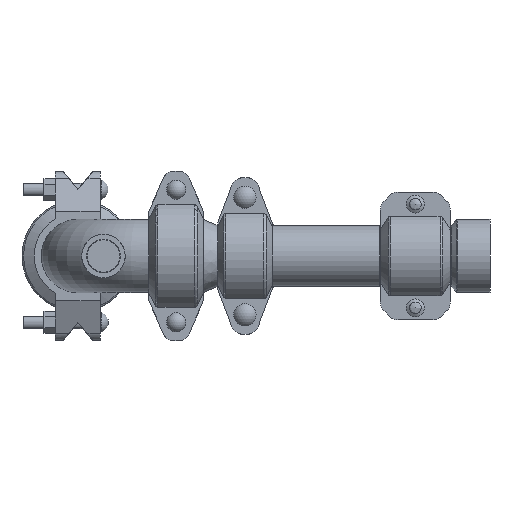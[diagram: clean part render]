
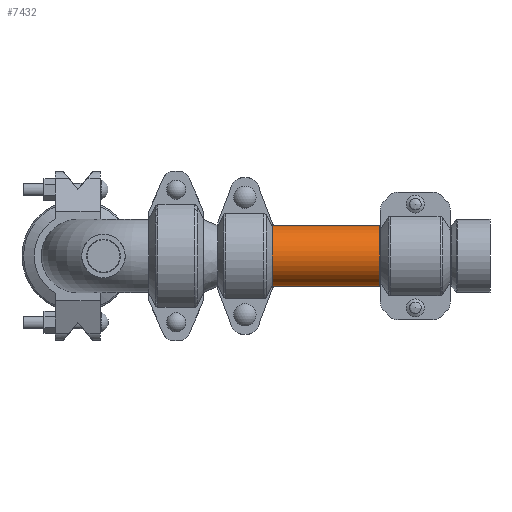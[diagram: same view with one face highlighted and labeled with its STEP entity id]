
A CAD part, front view. The second image highlights one B-rep face of the part: STEP entity #7432.
In plain terms, the highlighted cylindrical face has radius 30.163 mm (diameter 60.325 mm), a full revolution.
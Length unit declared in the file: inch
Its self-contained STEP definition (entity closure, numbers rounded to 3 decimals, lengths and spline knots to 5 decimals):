
#279=LINE('',#11395,#779);
#779=VECTOR('',#9057,1.1875);
#1279=CYLINDRICAL_SURFACE('',#8115,1.1875);
#1507=FACE_OUTER_BOUND('',#1905,.T.);
#1905=EDGE_LOOP('',(#4666,#4667,#4668,#4669,#4670,#4671));
#2391=CIRCLE('',#8113,1.1875);
#2392=CIRCLE('',#8114,1.1875);
#2393=CIRCLE('',#8116,1.1875);
#2394=CIRCLE('',#8117,1.1875);
#2843=VERTEX_POINT('',#11386);
#2844=VERTEX_POINT('',#11387);
#2845=VERTEX_POINT('',#11391);
#2846=VERTEX_POINT('',#11392);
#3580=EDGE_CURVE('',#2843,#2844,#2391,.T.);
#3581=EDGE_CURVE('',#2844,#2843,#2392,.T.);
#3582=EDGE_CURVE('',#2845,#2846,#2393,.T.);
#3583=EDGE_CURVE('',#2846,#2845,#2394,.T.);
#3584=EDGE_CURVE('',#2846,#2844,#279,.T.);
#4666=ORIENTED_EDGE('',*,*,#3582,.F.);
#4667=ORIENTED_EDGE('',*,*,#3583,.F.);
#4668=ORIENTED_EDGE('',*,*,#3584,.T.);
#4669=ORIENTED_EDGE('',*,*,#3581,.T.);
#4670=ORIENTED_EDGE('',*,*,#3580,.T.);
#4671=ORIENTED_EDGE('',*,*,#3584,.F.);
#7432=ADVANCED_FACE('',(#1507),#1279,.T.);
#8113=AXIS2_PLACEMENT_3D('',#11388,#9047,#9048);
#8114=AXIS2_PLACEMENT_3D('',#11389,#9049,#9050);
#8115=AXIS2_PLACEMENT_3D('',#11390,#9051,#9052);
#8116=AXIS2_PLACEMENT_3D('',#11393,#9053,#9054);
#8117=AXIS2_PLACEMENT_3D('',#11394,#9055,#9056);
#9047=DIRECTION('center_axis',(1.,0.,0.));
#9048=DIRECTION('ref_axis',(0.,0.,-1.));
#9049=DIRECTION('center_axis',(1.,0.,0.));
#9050=DIRECTION('ref_axis',(0.,0.,-1.));
#9051=DIRECTION('center_axis',(1.,0.,0.));
#9052=DIRECTION('ref_axis',(0.,1.,0.));
#9053=DIRECTION('center_axis',(1.,0.,0.));
#9054=DIRECTION('ref_axis',(0.,0.,-1.));
#9055=DIRECTION('center_axis',(1.,0.,0.));
#9056=DIRECTION('ref_axis',(0.,0.,-1.));
#9057=DIRECTION('',(-1.,0.,0.));
#11386=CARTESIAN_POINT('',(-2.1085,1.1875,0.));
#11387=CARTESIAN_POINT('',(-2.1085,-1.1875,0.));
#11388=CARTESIAN_POINT('Origin',(-2.1085,0.,0.));
#11389=CARTESIAN_POINT('Origin',(-2.1085,0.,0.));
#11390=CARTESIAN_POINT('Origin',(0.,0.,0.));
#11391=CARTESIAN_POINT('',(2.1085,1.1875,0.));
#11392=CARTESIAN_POINT('',(2.1085,-1.1875,0.));
#11393=CARTESIAN_POINT('Origin',(2.1085,0.,0.));
#11394=CARTESIAN_POINT('Origin',(2.1085,0.,0.));
#11395=CARTESIAN_POINT('',(0.,-1.1875,0.));
